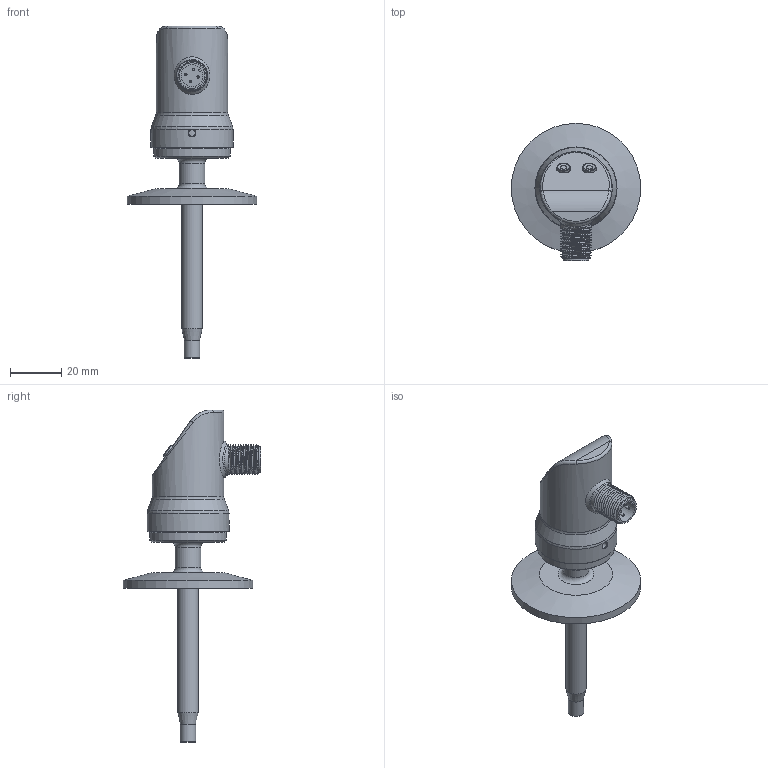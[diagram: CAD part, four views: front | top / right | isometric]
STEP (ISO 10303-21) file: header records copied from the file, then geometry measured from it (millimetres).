
FILE_DESCRIPTION( (''), '2;1');
FILE_NAME( 'QSKE_H50_L60_tri-clamp.step', '2026-08-14T11:42:26+08:00', (''), (''), '', '', '');
FILE_SCHEMA (('AUTOMOTIVE_DESIGN { 1 0 10303 214 3 1 1 1 }'));
Length unit declared in the file: millimetre
Products named in the file (1): QSKE H50_L60_tri-clamp
Bounding box: 50.5 x 53.6 x 129.5 mm (x, y, z)
Volume: 29847.1 mm3; surface area: 20057 mm2
Topology: 9 solids, 10 shells, 209 faces, 497 edges, 327 vertices
Faces by surface type: plane 94, cylinder 47, torus 29, cone 26, bspline 11, extrusion 2
Full cylindrical faces by diameter (mm): 0.9 x8, 2 x4, 2.5 x1, 5.2 x2, 5.6 x2, 6 x1, 6.8 x1, 8 x1, 9.8 x2, 10 x2, 27 x1, 28 x1, 30 x1, 32 x1, 50.5 x1
Entity records: 8672 total; most frequent: CARTESIAN_POINT 4101, DIRECTION 904, ORIENTED_EDGE 798, EDGE_CURVE 399, AXIS2_PLACEMENT_3D 373, EDGE_LOOP 306, VERTEX_POINT 299, ADVANCED_FACE 209
